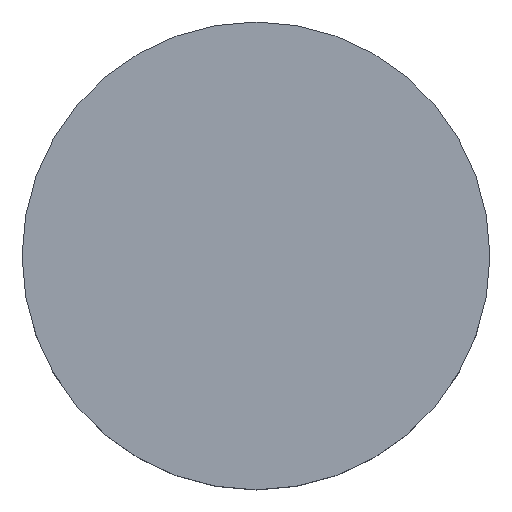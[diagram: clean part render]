
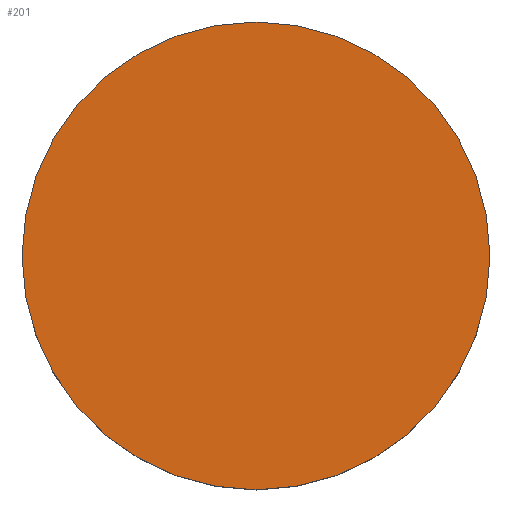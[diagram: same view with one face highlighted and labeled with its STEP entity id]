
A CAD part, top view. The second image highlights one B-rep face of the part: STEP entity #201.
In plain terms, the highlighted planar face has unit normal (0, 0, 1).
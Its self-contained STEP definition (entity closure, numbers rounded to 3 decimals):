
#201=ADVANCED_FACE('',(#257),#244,.T.);
#244=PLANE('',#710);
#257=FACE_OUTER_BOUND('',#289,.T.);
#289=EDGE_LOOP('',(#343,#344));
#343=ORIENTED_EDGE('',*,*,#565,.F.);
#344=ORIENTED_EDGE('',*,*,#566,.F.);
#511=VERTEX_POINT('',#1041);
#512=VERTEX_POINT('',#1042);
#565=EDGE_CURVE('',#511,#512,#649,.T.);
#566=EDGE_CURVE('',#512,#511,#650,.T.);
#649=CIRCLE('',#708,11.5);
#650=CIRCLE('',#709,11.5);
#708=AXIS2_PLACEMENT_3D('',#1040,#811,#812);
#709=AXIS2_PLACEMENT_3D('',#1043,#813,#814);
#710=AXIS2_PLACEMENT_3D('',#1044,#815,#816);
#811=DIRECTION('',(0.,0.,-1.));
#812=DIRECTION('',(0.,1.,0.));
#813=DIRECTION('',(0.,0.,-1.));
#814=DIRECTION('',(0.,-1.,0.));
#815=DIRECTION('',(0.,0.,1.));
#816=DIRECTION('',(0.,-1.,0.));
#1040=CARTESIAN_POINT('',(0.,0.,5.));
#1041=CARTESIAN_POINT('',(11.5,0.,5.));
#1042=CARTESIAN_POINT('',(-11.5,0.,5.));
#1043=CARTESIAN_POINT('',(0.,0.,5.));
#1044=CARTESIAN_POINT('',(0.,0.,5.));
